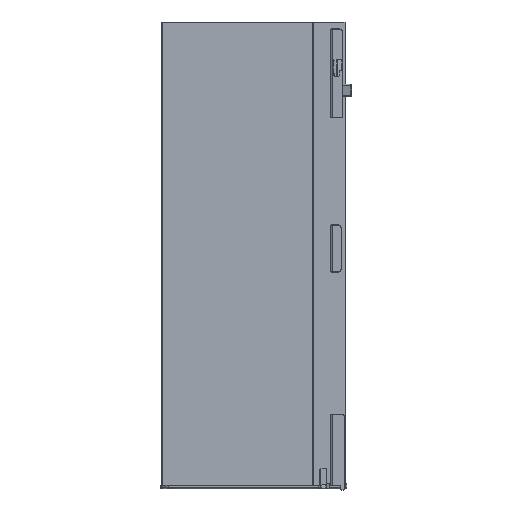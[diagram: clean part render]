
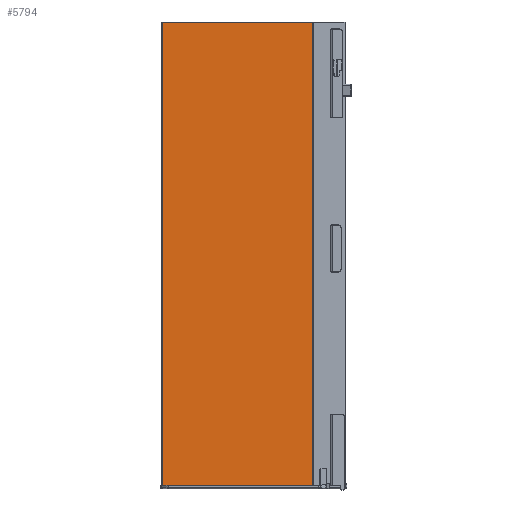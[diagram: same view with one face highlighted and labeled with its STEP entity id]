
A CAD part, left-side view. The second image highlights one B-rep face of the part: STEP entity #5794.
In plain terms, the highlighted planar face has unit normal (-1, 0, 0).
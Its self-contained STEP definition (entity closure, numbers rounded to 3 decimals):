
#2 = DIRECTION ( 'NONE',  ( 0., 0., -1. ) ) ;
#621 = VECTOR ( 'NONE', #12703, 1000. ) ;
#760 = ORIENTED_EDGE ( 'NONE', *, *, #11406, .F. ) ;
#1541 = LINE ( 'NONE', #1624, #4612 ) ;
#1624 = CARTESIAN_POINT ( 'NONE',  ( 0.5, 0., -437.8 ) ) ;
#1655 = CARTESIAN_POINT ( 'NONE',  ( 0.5, 0., -437.8 ) ) ;
#1964 = EDGE_CURVE ( 'NONE', #11744, #10906, #6698, .T. ) ;
#2842 = VERTEX_POINT ( 'NONE', #1655 ) ;
#3115 = DIRECTION ( 'NONE',  ( -1., 0., 0. ) ) ;
#4612 = VECTOR ( 'NONE', #14270, 1000. ) ;
#5794 = ADVANCED_FACE ( 'NONE', ( #8059 ), #14568, .T. ) ;
#6266 = EDGE_CURVE ( 'NONE', #7576, #2842, #1541, .T. ) ;
#6698 = LINE ( 'NONE', #8734, #12471 ) ;
#7576 = VERTEX_POINT ( 'NONE', #8378 ) ;
#8059 = FACE_OUTER_BOUND ( 'NONE', #12790, .T. ) ;
#8078 = CARTESIAN_POINT ( 'NONE',  ( 0.5, 141.8, -449. ) ) ;
#8378 = CARTESIAN_POINT ( 'NONE',  ( 0.5, 141.8, -437.8 ) ) ;
#8734 = CARTESIAN_POINT ( 'NONE',  ( 0.5, -0.5, 0. ) ) ;
#8858 = CARTESIAN_POINT ( 'NONE',  ( 0.5, 141.8, 0. ) ) ;
#9804 = LINE ( 'NONE', #8078, #621 ) ;
#9995 = DIRECTION ( 'NONE',  ( 0., 0., -1. ) ) ;
#10066 = EDGE_CURVE ( 'NONE', #7576, #10906, #9804, .T. ) ;
#10244 = ORIENTED_EDGE ( 'NONE', *, *, #6266, .T. ) ;
#10334 = CARTESIAN_POINT ( 'NONE',  ( 0.5, 0., -449. ) ) ;
#10837 = VECTOR ( 'NONE', #2, 1000. ) ;
#10906 = VERTEX_POINT ( 'NONE', #8858 ) ;
#11153 = CARTESIAN_POINT ( 'NONE',  ( 0.5, -0.5, -449. ) ) ;
#11221 = LINE ( 'NONE', #10334, #10837 ) ;
#11406 = EDGE_CURVE ( 'NONE', #11744, #2842, #11221, .T. ) ;
#11744 = VERTEX_POINT ( 'NONE', #12382 ) ;
#12261 = ORIENTED_EDGE ( 'NONE', *, *, #10066, .F. ) ;
#12382 = CARTESIAN_POINT ( 'NONE',  ( 0.5, 0., 0. ) ) ;
#12471 = VECTOR ( 'NONE', #13266, 1000. ) ;
#12703 = DIRECTION ( 'NONE',  ( 0., 0., 1. ) ) ;
#12790 = EDGE_LOOP ( 'NONE', ( #12261, #10244, #760, #14481 ) ) ;
#13266 = DIRECTION ( 'NONE',  ( 0., 1., 0. ) ) ;
#13268 = AXIS2_PLACEMENT_3D ( 'NONE', #11153, #3115, #9995 ) ;
#14270 = DIRECTION ( 'NONE',  ( 0., -1., 0. ) ) ;
#14481 = ORIENTED_EDGE ( 'NONE', *, *, #1964, .T. ) ;
#14568 = PLANE ( 'NONE',  #13268 ) ;
